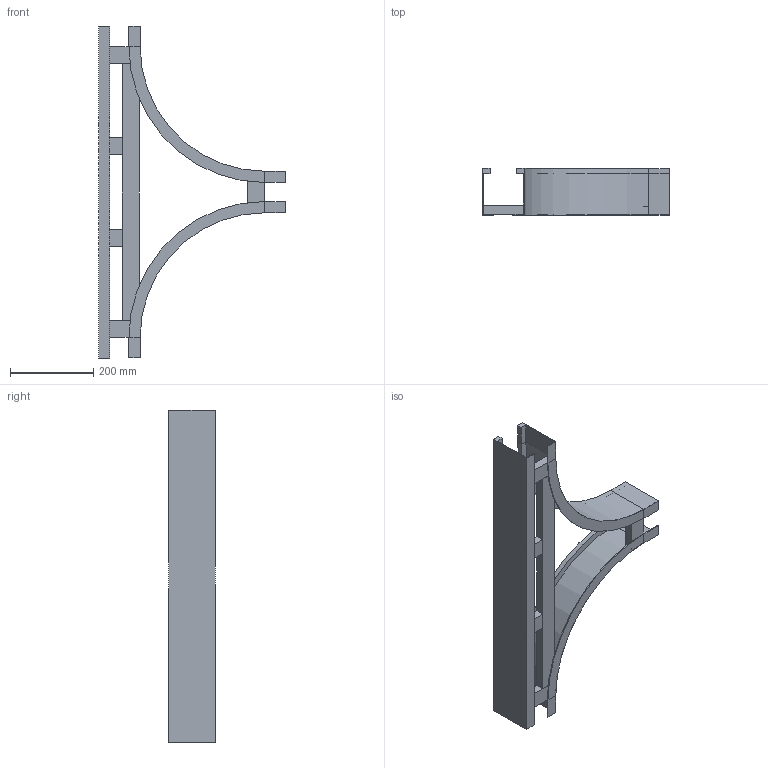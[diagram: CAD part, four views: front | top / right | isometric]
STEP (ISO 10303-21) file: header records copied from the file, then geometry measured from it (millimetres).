
FILE_DESCRIPTION (( 'STEP AP214' ), '1' );
FILE_NAME ('B2_15B3J100.step', '2025-02-21T15:51:52', ( '' ), ( '' ), 'SwSTEP 2.0', 'SolidWorks 2023', '' );
FILE_SCHEMA (( 'AUTOMOTIVE_DESIGN' ));
Length unit declared in the file: millimetre
Products named in the file (6): B2_TRAVERSINO_LONG._R300+100; B2_15B3J100; B2_LONGH.INTERNO 90°_H112.5_R300; TRAVERSINO_100; B2_LONGH.RETT_H112.5_R300+100; TRAVERSINO_INTERMEDIO_R300+100
Assembly tree (9 placements, depth 2):
  B2_15B3J100
    B2_LONGH.INTERNO 90°_H112.5_R300  x2
    B2_LONGH.RETT_H112.5_R300+100
    TRAVERSINO_100  x3
    B2_TRAVERSINO_LONG._R300+100
    TRAVERSINO_INTERMEDIO_R300+100  x2
Bounding box: 450 x 112.5 x 800 mm (x, y, z)
Volume: 1740733.5 mm3; surface area: 744573.2 mm2
Topology: 9 solids, 9 shells, 98 faces, 208 edges, 128 vertices
Faces by surface type: plane 90, cylinder 8
Entity records: 1639 total; most frequent: DIRECTION 256, CARTESIAN_POINT 254, ORIENTED_EDGE 232, EDGE_CURVE 116, VECTOR 108, LINE 108, AXIS2_PLACEMENT_3D 74, VERTEX_POINT 72
